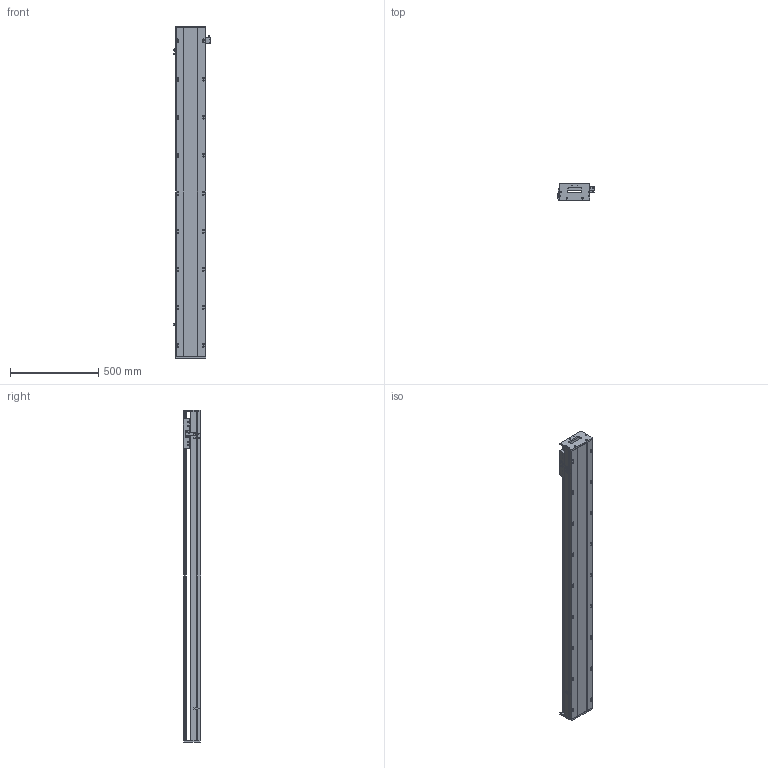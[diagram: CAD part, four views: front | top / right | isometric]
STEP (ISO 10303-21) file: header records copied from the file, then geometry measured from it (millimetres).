
FILE_DESCRIPTION (( 'STEP AP203' ), '1' );
FILE_NAME ('SKR17S-C1-S1614（简）.STEP', '2022-09-29T05:54:24', ( '' ), ( '' ), 'SwSTEP 2.0', 'SolidWorks 2018', '' );
FILE_SCHEMA (( 'CONFIG_CONTROL_DESIGN' ));
Length unit declared in the file: millimetre
Products named in the file (8): EE-SX672; SKR17菁釱-C1-S1614(潠); SKR17S-C1-S1614（简）; 感应片（SKR12S-14S-17S）; SKR17耜啣; 棠掑假蚾輸; SKR17滑台-170L（简）; SIKO棠掑
Assembly tree (10 placements, depth 2):
  SKR17S-C1-S1614（简）
    SKR17菁釱-C1-S1614(潠)
    SKR17滑台-170L（简）
    SIKO棠掑
    EE-SX672  x3
    SKR17耜啣  x2
    棠掑假蚾輸
    感应片（SKR12S-14S-17S）
Bounding box: 212.7 x 97 x 1884 mm (x, y, z)
Volume: 14545349.8 mm3; surface area: 1781983.1 mm2
Topology: 11 solids, 11 shells, 1233 faces, 3423 edges, 2202 vertices
Faces by surface type: cylinder 596, plane 509, cone 128
Entity records: 38022 total; most frequent: CARTESIAN_POINT 10217, ORIENTED_EDGE 5850, DIRECTION 5380, EDGE_CURVE 2925, AXIS2_PLACEMENT_3D 1917, VERTEX_POINT 1906, VECTOR 1546, LINE 1546
